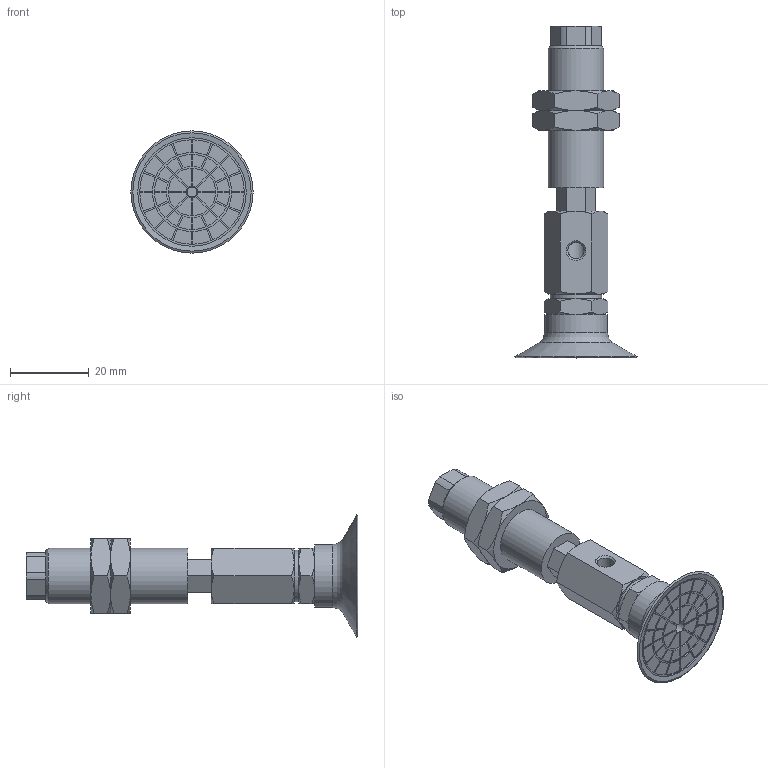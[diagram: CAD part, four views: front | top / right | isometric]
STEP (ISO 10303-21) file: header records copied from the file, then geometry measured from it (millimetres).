
FILE_DESCRIPTION(('STEP AP203'),'1');
FILE_NAME('.stp','2025-03-13T03:29:02',(' '),(' '),'Spatial InterOp 3D',' ',' ');
FILE_SCHEMA(('CONFIG_CONTROL_DESIGN'));
Length unit declared in the file: millimetre
Products named in the file (7): BNABPAYH-30B-6-※; NAPATH-30B-6--M; NAPATH-30B-6--F; Nut-25-S; CONNECTOR-30B-6-PA; TN-PA-30B-M6; BPAG-30B-※
Assembly tree (7 placements, depth 2):
  BNABPAYH-30B-6-※
    NAPATH-30B-6--M
    NAPATH-30B-6--F
    Nut-25-S  x2
    CONNECTOR-30B-6-PA
    TN-PA-30B-M6
    BPAG-30B-※
Bounding box: 31.04 x 84.2 x 31.04 mm (x, y, z)
Volume: 15236.8 mm3; surface area: 11619.9 mm2
Topology: 7 solids, 7 shells, 374 faces, 873 edges, 558 vertices
Faces by surface type: plane 207, cylinder 96, cone 65, torus 6
Full cylindrical faces by diameter (mm): 2.5 x1, 3 x2, 4.134 x2, 4.917 x1, 5 x1, 6 x3, 10 x2, 12.917 x2, 13 x1, 14 x1, 16 x1, 27.5 x1
Entity records: 10458 total; most frequent: CARTESIAN_POINT 2106, DIRECTION 1690, ORIENTED_EDGE 1564, EDGE_CURVE 782, AXIS2_PLACEMENT_3D 624, VERTEX_POINT 524, EDGE_LOOP 444, LINE 442
